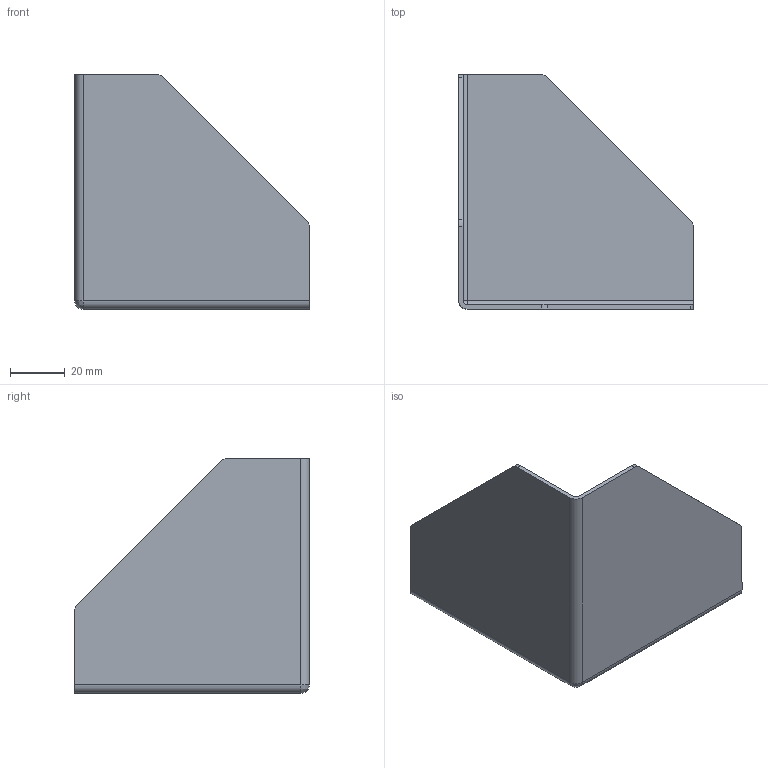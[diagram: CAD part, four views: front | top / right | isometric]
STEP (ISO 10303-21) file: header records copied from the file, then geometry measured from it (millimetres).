
FILE_DESCRIPTION (( 'STEP AP203' ), '1' );
FILE_NAME ('FDPCG023D_1_90.step', '2019-09-11T19:51:52', ( 'ydmin' ), ( '' ), 'SwSTEP 2.0', 'SolidWorks 2017', '' );
FILE_SCHEMA (( 'CONFIG_CONTROL_DESIGN' ));
Length unit declared in the file: inch
Products named in the file (1): FDPCG023D_1_90
Bounding box: 85.72 x 85.72 x 85.72 mm (x, y, z)
Volume: 27176.7 mm3; surface area: 34625 mm2
Topology: 1 solids, 1 shells, 26 faces, 68 edges, 42 vertices
Faces by surface type: plane 12, cylinder 12, bspline 2
Entity records: 887 total; most frequent: CARTESIAN_POINT 165, DIRECTION 140, ORIENTED_EDGE 132, EDGE_CURVE 66, AXIS2_PLACEMENT_3D 49, LINE 42, VECTOR 42, VERTEX_POINT 42
